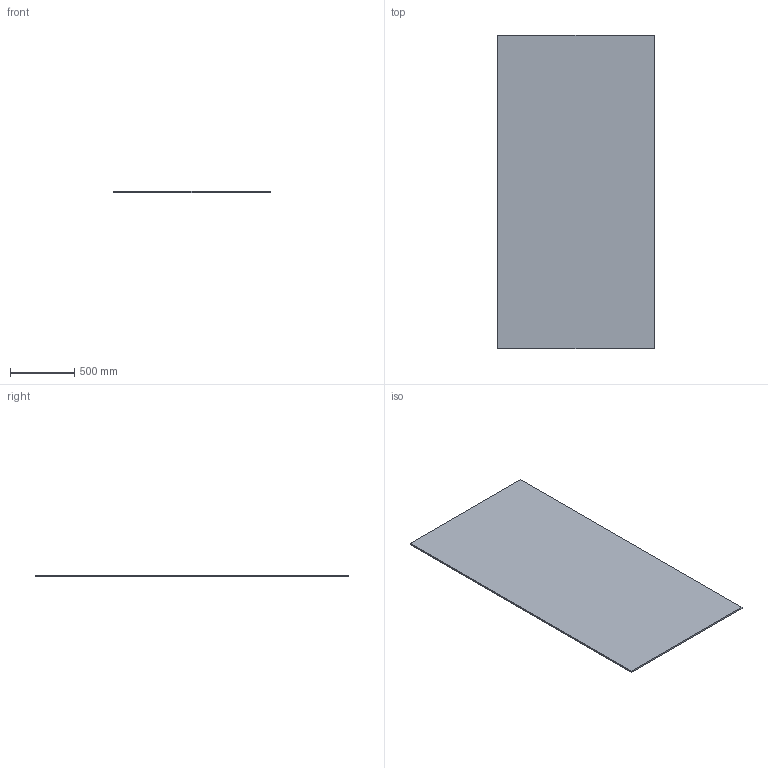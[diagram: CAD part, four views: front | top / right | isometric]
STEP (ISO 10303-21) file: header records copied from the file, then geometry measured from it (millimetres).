
FILE_DESCRIPTION(/* description */ (''),/* implementation_level */ '2;1');
FILE_NAME(/* name */ 'SM_Cloud_48x96x0.5_Flat',/* time_stamp */ '2024-10-16T11:20:39-05:00',/* author */ (''),/* organization */ (''),/* preprocessor_version */ 'ST-DEVELOPER v19.2',/* originating_system */ 'Rhino 8.4',/* authorisation */ '');
FILE_SCHEMA (('CONFIG_CONTROL_DESIGN'));
Length unit declared in the file: inch
Products named in the file (1): Document
Bounding box: 1219.2 x 2438.4 x 12.7 mm (x, y, z)
Volume: 37755795.5 mm3; surface area: 6038697.6 mm2
Topology: 1 solids, 1 shells, 6 faces, 12 edges, 8 vertices
Faces by surface type: plane 6
Entity records: 226 total; most frequent: CARTESIAN_POINT 40, ORIENTED_EDGE 24, EDGE_CURVE 12, B_SPLINE_CURVE_WITH_KNOTS 12, DIRECTION 10, VERTEX_POINT 8, AXIS2_PLACEMENT_3D 8, ORGANIZATION 7
